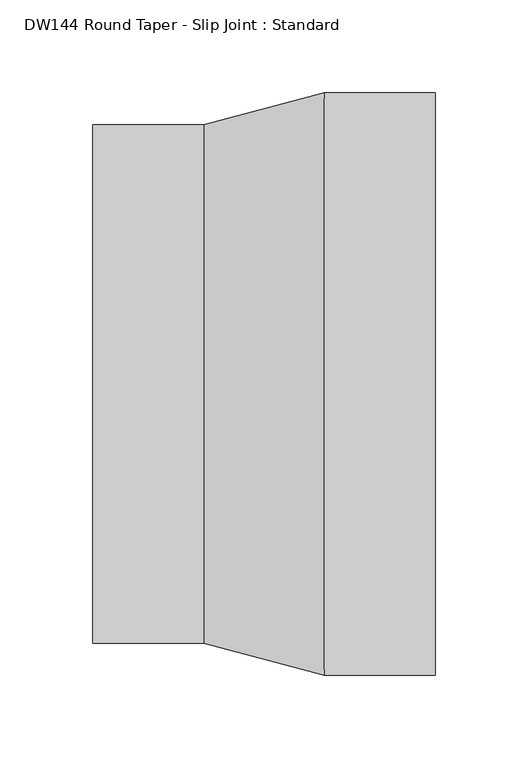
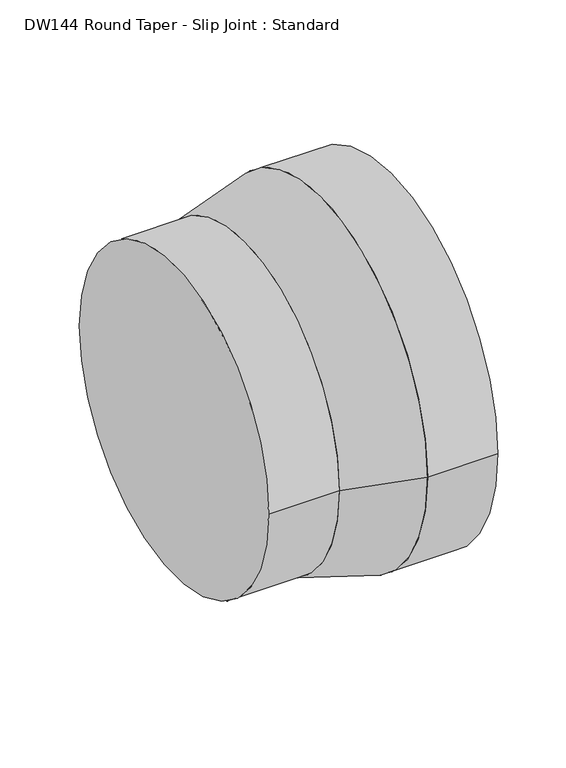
"""IFC4 building model written with IfcOpenShell, lengths in millimetres: duct fitting geometry, DW144 Round Taper - Slip Joint : Standard."""

from ifc_helpers import new_model, si_unit, point, frame, origin, origin_2d, place, context, project, spatial, polyline, circle_curve, trimmed, segment, composite_curve, outline, extrude, source, transform, mapped, element, save
from ifc_brep_helpers import plane_surface, revolved_surface, advanced_brep


def dw144_round_taper_slip_joint_standard_a1f2c1a5(model_context):
    return source(origin(), model_context, "Body", "SolidModel", [
        extrude(outline(composite_curve([segment(trimmed(circle_curve(origin_2d(), 157.5), [point((-157.5, 0.0))], [point((157.5, 0.0))], False, "CARTESIAN"), True, "CONTINUOUS"), segment(trimmed(circle_curve(origin_2d(), 157.5), [point((157.5, 0.0))], [point((-157.5, 0.0))], False, "CARTESIAN"), True, "CONTINUOUS")], self_intersect=False)), frame((125.3108891, 0.0, 0.0), z_axis=(1.0, 0.0, 0.0), x_axis=(0.0, 1.0, 0.0)), (0.0, 0.0, 1.0), 60.0),
        extrude(outline(composite_curve([segment(trimmed(circle_curve(origin_2d(), 140.0), [point((-140.0, 0.0))], [point((140.0, 0.0))], False, "CARTESIAN"), True, "CONTINUOUS"), segment(trimmed(circle_curve(origin_2d(), 140.0), [point((140.0, 0.0))], [point((-140.0, 0.0))], False, "CARTESIAN"), True, "CONTINUOUS")], self_intersect=False)), frame((0.0, 0.0, 0.0), z_axis=(1.0, 0.0, 0.0), x_axis=(0.0, 1.0, 0.0)), (0.0, 0.0, 1.0), 60.0),
        advanced_brep(
        [(125.3108891, -157.5, 0.0), (125.3108891, 157.5, 0.0), (60.0, -140.0, 0.0), (60.0, 140.0, 0.0)],
        [
            (0, 1, circle_curve(frame((125.3108891, 0.0, 0.0), z_axis=(1.0, 0.0, 0.0), x_axis=(0.0, -1.0, 0.0)), 157.5)),
            (1, 0, circle_curve(frame((125.3108891, 0.0, 0.0), z_axis=(1.0, 0.0, 0.0), x_axis=(0.0, 1.0, 0.0)), 157.5)),
            (2, 3, circle_curve(frame((60.0, 0.0, 0.0), z_axis=(-1.0, 0.0, 0.0), x_axis=(0.0, 1.0, 0.0)), 140.0)),
            (3, 2, circle_curve(frame((60.0, 0.0, 0.0), z_axis=(-1.0, 0.0, 0.0), x_axis=(0.0, -1.0, 0.0)), 140.0)),
            (3, 1),
            (0, 2),
        ],
        [
            plane_surface(frame((125.3108891, 0.0, 0.0), z_axis=(1.0, 0.0, 0.0), x_axis=(0.0, 0.0, -1.0))),
            plane_surface(frame((60.0, 0.0, 0.0), z_axis=(-1.0, 0.0, 0.0), x_axis=(0.0, 0.0, -1.0))),
            revolved_surface(polyline([(60.0, 140.00000000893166, 0.0), (125.31088909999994, 157.5, 0.0)]), (-462.4871131, 0.0, 0.0), (1.0, 0.0, 0.0)),
            revolved_surface(polyline([(60.0, -140.00000000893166, 0.0), (125.31088909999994, -157.5, 0.0)]), (-462.4871131, 0.0, 0.0), (1.0, 0.0, 0.0)),
        ],
        [
            (0, [[1, 2]]),
            (1, [[3, 4]]),
            (2, [[-4, 5, -1, 6]]),
            (3, [[-3, -6, -2, -5]]),
        ],
    ),
    ])


if __name__ == "__main__":
    model = new_model("IFC4")
    model_context = context("Model", 3, world=origin())
    ifc_project = project(units=[si_unit("LENGTHUNIT", "METRE", prefix="MILLI")], contexts=[model_context])
    site = spatial("IfcSite", under=ifc_project)
    building = spatial("IfcBuilding", under=site)
    placement = place(None, origin())
    dw144_round_taper_slip_joint_standard_shape = dw144_round_taper_slip_joint_standard_a1f2c1a5(model_context)
    element("IfcDuctFitting", 1, ObjectType="DW144 Round Taper - Slip Joint : Standard", at=placement, inside=building, context=model_context, shape_type="MappedRepresentation", body=[
        mapped(dw144_round_taper_slip_joint_standard_shape, transform((0.0, 0.0, 0.0), x_axis=(1.0, 0.0, 0.0), y_axis=(0.0, 1.0, 0.0), z_axis=(0.0, 0.0, 1.0))),
    ])
    save(model, "model.ifc")
